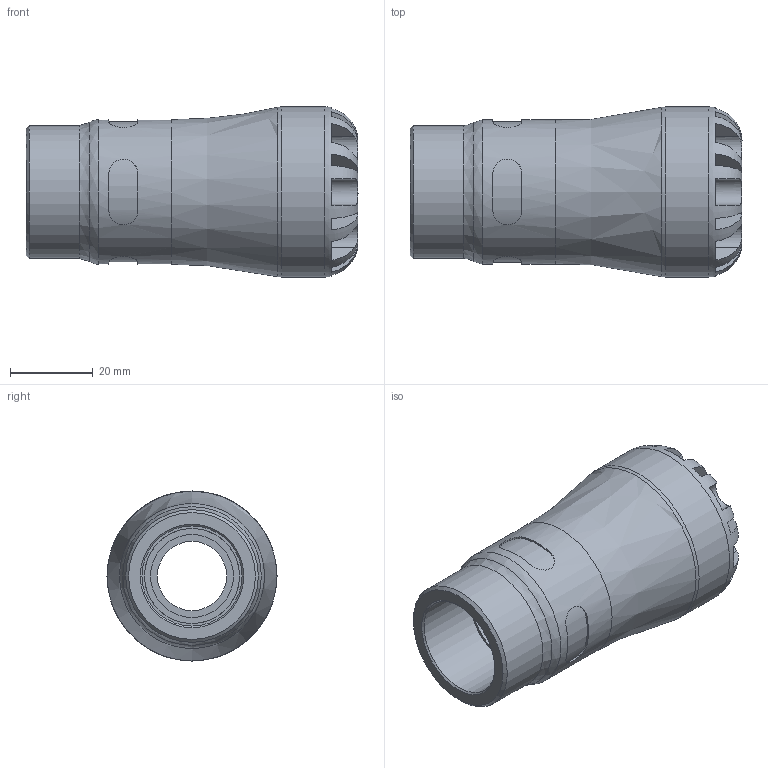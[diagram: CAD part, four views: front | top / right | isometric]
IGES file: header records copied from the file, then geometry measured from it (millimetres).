
Global section: file name: 107300020007_197300020007.ipt; native system: Autodesk Inventor 2015; preprocessor: unknown; author: KIM; date: 20170122.113556; units: millimetre
Bounding box: 80 x 41 x 41 mm (x, y, z)
Volume: 52634.9 mm3; surface area: 17014.1 mm2
Topology: 1 solids, 1 shells, 108 faces, 278 edges, 180 vertices
Faces by surface type: plane 63, revolution 29, cylinder 15, cone 1
Full cylindrical faces by diameter (mm): 31.98 x1, 34.85 x1, 41 x1
